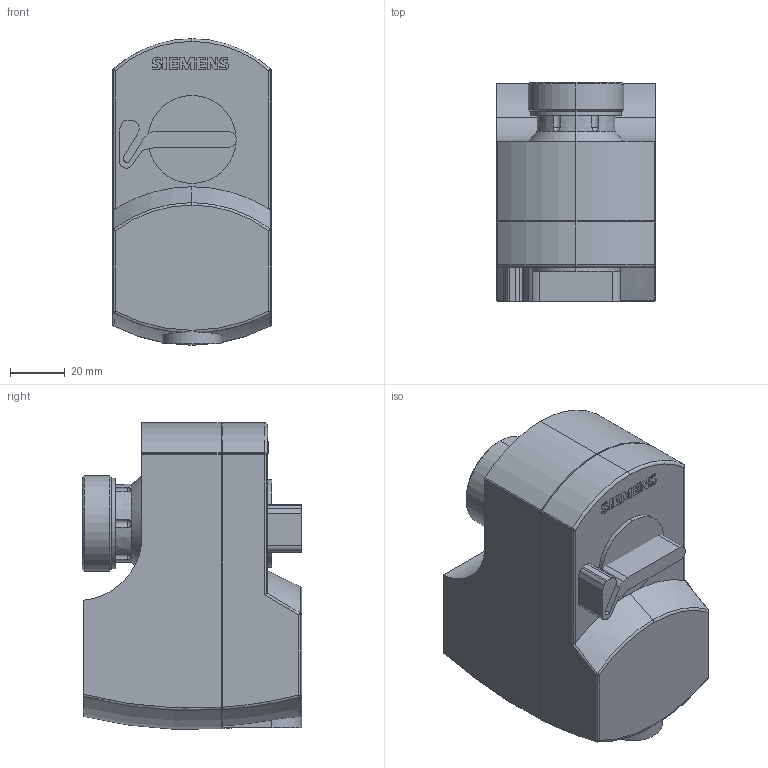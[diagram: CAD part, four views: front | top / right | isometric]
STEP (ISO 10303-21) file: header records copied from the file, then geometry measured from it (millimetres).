
FILE_DESCRIPTION((''),'2;1');
FILE_NAME('SFA21_18_71_18.stp','2006-10-04T14:19:07',(''),(''),'Mechanical Desktop 2006','Mechanical Desktop 2006',', , ');
FILE_SCHEMA(('AUTOMOTIVE_DESIGN { 1 2 10303 214 0 1 1 1 }'));
Length unit declared in the file: millimetre
Products named in the file (1): Product
Bounding box: 58 x 80 x 111.87 mm (x, y, z)
Volume: 388860.7 mm3; surface area: 66987.3 mm2
Topology: 15 solids, 15 shells, 303 faces, 792 edges, 509 vertices
Faces by surface type: cylinder 130, plane 106, bspline 29, cone 14, torus 12, sphere 12
Entity records: 10322 total; most frequent: CARTESIAN_POINT 2776, DIRECTION 1605, ORIENTED_EDGE 1560, EDGE_CURVE 780, AXIS2_PLACEMENT_3D 610, VERTEX_POINT 509, VECTOR 385, LINE 385
